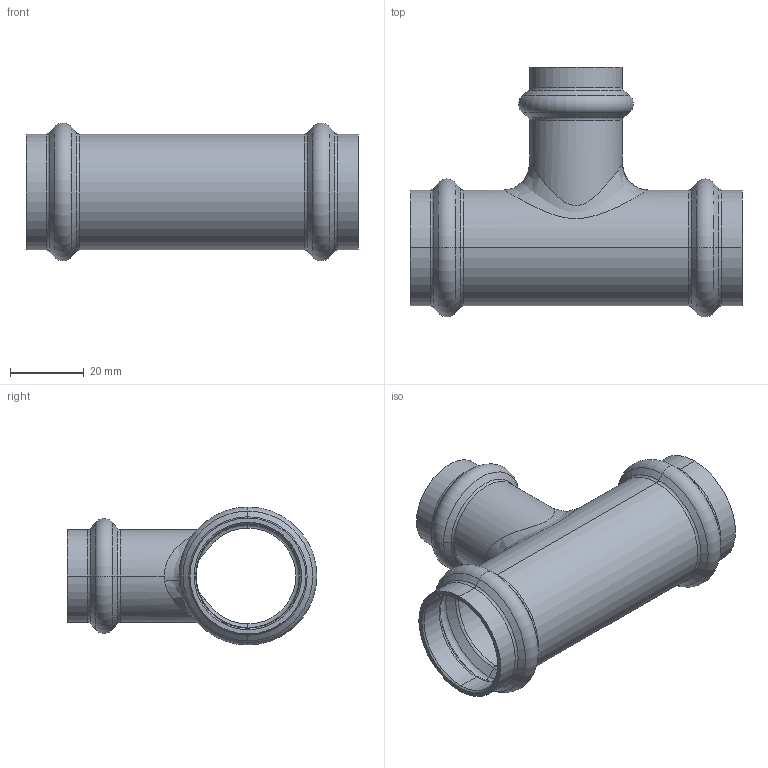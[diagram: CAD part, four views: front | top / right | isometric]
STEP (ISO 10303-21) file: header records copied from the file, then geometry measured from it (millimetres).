
FILE_DESCRIPTION (( 'STEP AP203' ), '1' );
FILE_NAME ('SP5130 Ø28-22-28.STEP', '2017-04-25T14:57:04', ( '' ), ( '' ), 'SwSTEP 2.0', 'SolidWorks 2016', '' );
FILE_SCHEMA (( 'CONFIG_CONTROL_DESIGN' ));
Length unit declared in the file: millimetre
Products named in the file (1): SP5130 Ø28-22-28
Bounding box: 90 x 67.7 x 37.4 mm (x, y, z)
Volume: 21185.9 mm3; surface area: 23501.4 mm2
Topology: 1 solids, 1 shells, 113 faces, 238 edges, 130 vertices
Faces by surface type: torus 42, cylinder 31, cone 30, plane 6, bspline 4
Entity records: 4319 total; most frequent: CARTESIAN_POINT 1770, DIRECTION 596, ORIENTED_EDGE 476, AXIS2_PLACEMENT_3D 268, EDGE_CURVE 238, CIRCLE 158, VERTEX_POINT 130, EDGE_LOOP 120
